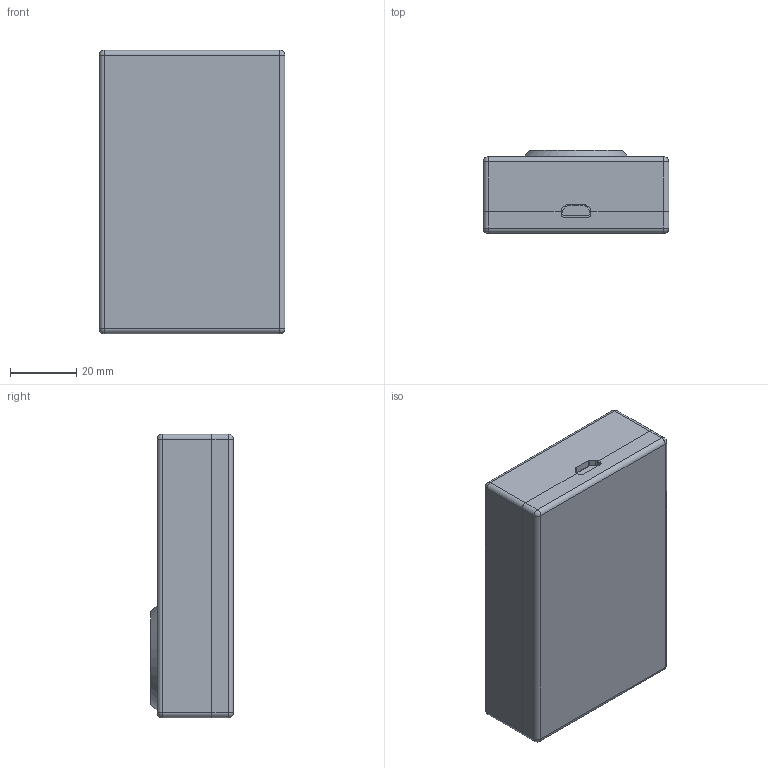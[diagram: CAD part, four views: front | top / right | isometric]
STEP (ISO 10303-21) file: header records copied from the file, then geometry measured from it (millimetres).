
FILE_DESCRIPTION(/* description */ (''),/* implementation_level */ '2;1');
FILE_NAME(/* name */ 'C:/Users/yneko/Desktop/OTS-815Vケース Ver2.step',/* time_stamp */ '2017-08-31T16:10:48+09:00',/* author */ (''),/* organization */ (''),/* preprocessor_version */ 'ST-DEVELOPER v16.13',/* originating_system */ 'Autodesk Translation Framework v6.1.1.50',/* authorisation */ '');
FILE_SCHEMA (('AUTOMOTIVE_DESIGN { 1 0 10303 214 3 1 1 }'));
Length unit declared in the file: millimetre
Products named in the file (8): OTS-815Vケース Ver2 v4; OTS-815V 基板 v1; センサー; センサー窓; USBコネクタ; 上蓋; 下蓋; フィルター
Assembly tree (7 placements, depth 4):
  OTS-815Vケース Ver2 v4
    OTS-815V 基板 v1
      センサー
        センサー窓
      USBコネクタ
    上蓋
    下蓋
    フィルター
Bounding box: 56 x 25 x 85.5 mm (x, y, z)
Volume: 40101.6 mm3; surface area: 42110.8 mm2
Topology: 7 solids, 7 shells, 147 faces, 327 edges, 205 vertices
Faces by surface type: plane 77, cylinder 55, sphere 12, cone 2, bspline 1
Full cylindrical faces by diameter (mm): 2.6 x4, 3.2 x6, 8 x4, 22 x1, 25.4 x1, 26 x1
Entity records: 4583 total; most frequent: CARTESIAN_POINT 1092, DIRECTION 743, ORIENTED_EDGE 614, EDGE_CURVE 307, AXIS2_PLACEMENT_3D 275, VERTEX_POINT 204, LINE 193, VECTOR 193
